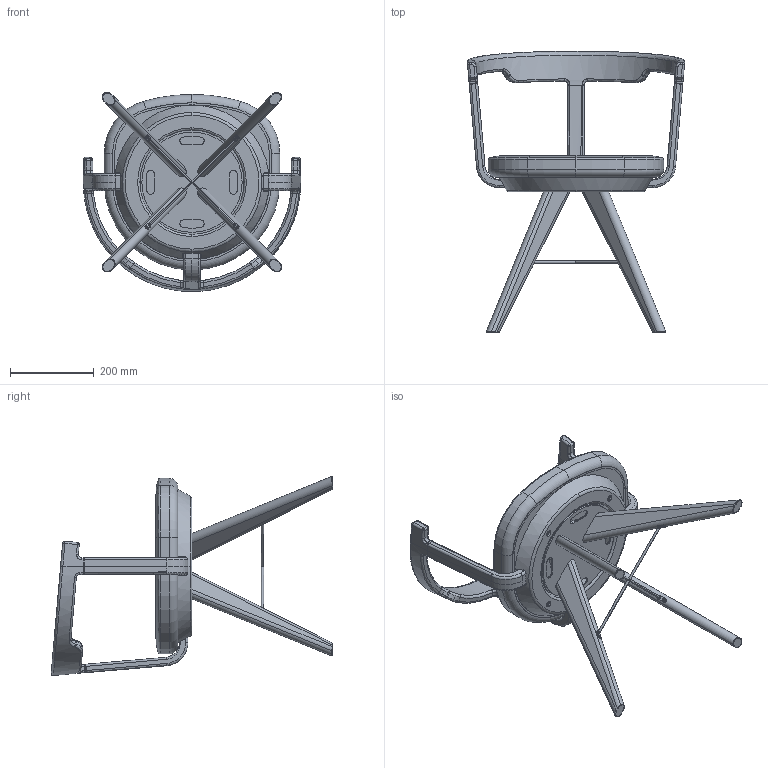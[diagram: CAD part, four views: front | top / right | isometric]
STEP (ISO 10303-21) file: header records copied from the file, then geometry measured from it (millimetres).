
FILE_DESCRIPTION (( 'STEP AP214' ), '1' );
FILE_NAME ('僗僀儀儖CG.STEP', '2026-03-25T08:32:26', ( '' ), ( '' ), 'SwSTEP 2.0', 'SolidWorks 2025', '' );
FILE_SCHEMA (( 'AUTOMOTIVE_DESIGN' ));
Length unit declared in the file: millimetre
Products named in the file (1): スイベルCG
Bounding box: 520.05 x 673.97 x 476.59 mm (x, y, z)
Volume: 12935115 mm3; surface area: 1482128.1 mm2
Topology: 16 solids, 16 shells, 813 faces, 2028 edges, 1286 vertices
Faces by surface type: cylinder 326, plane 251, bspline 112, cone 58, torus 44, sphere 22
Entity records: 31136 total; most frequent: CARTESIAN_POINT 12280, ORIENTED_EDGE 4040, DIRECTION 3682, EDGE_CURVE 2020, AXIS2_PLACEMENT_3D 1418, VERTEX_POINT 1284, EDGE_LOOP 916, LINE 846
